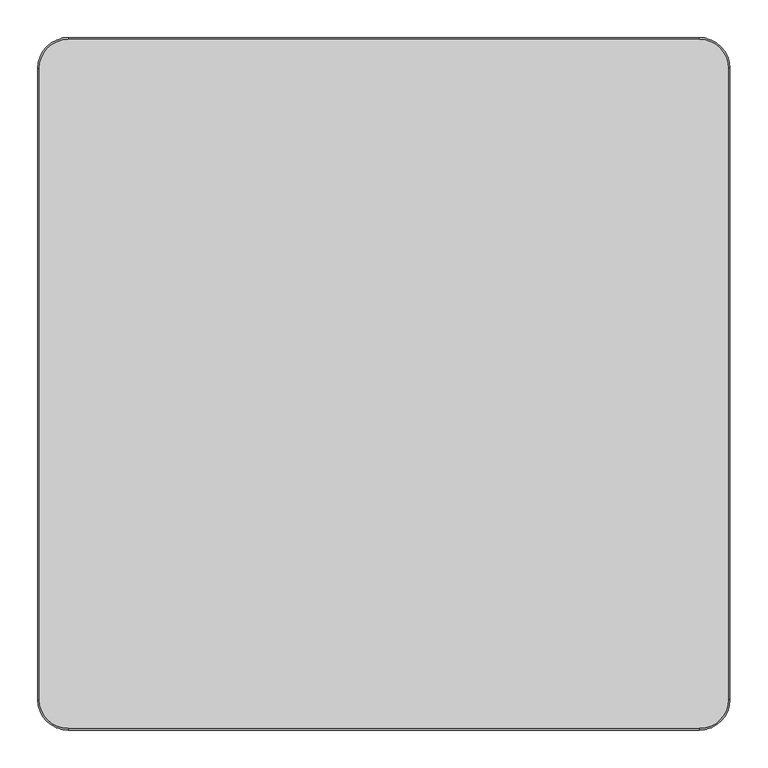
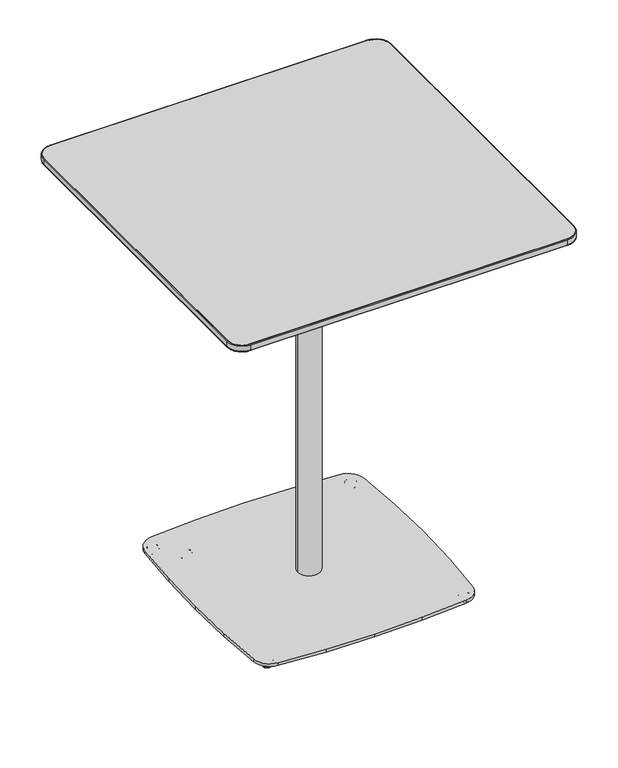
"""IFC4 building model written with IfcOpenShell, lengths in millimetres: furniture geometry, Coalesse_AM_Table_Occasional_Montara650Table_CafeHeight_Square : Bar Height - 36D x 36W."""

from ifc_helpers import new_model, si_unit, point, frame, frame_2d, origin, place, context, project, spatial, polyline, circle_curve, ellipse_curve, trimmed, segment, composite_curve, outline, extrude, source, transform, mapped, element, save
from ifc_brep_helpers import plane_surface, cylinder_surface, revolved_surface, spline_surface, advanced_brep


def furniture_301676fc(model_context):
    return source(origin(), model_context, "Body", "SolidModel", [
        advanced_brep(
        [(252.3158533, 252.1363755, 0.0), (267.0011381, 266.8216603, 0.0), (259.6584957, 259.4790179, 0.0), (251.7693511, 251.5898733, 0.5718943), (267.5476403, 267.3681625, 0.5718943), (249.470252, 249.2907742, 11.2068005), (269.8467394, 269.6672616, 11.2068005), (249.8852728, 249.705795, 11.9999882), (269.4317186, 269.2522408, 11.9999882), (259.6584957, 259.4790179, 11.9999882)],
        [
            (0, 1, circle_curve(frame((259.6584957, 259.4790179, 0.0), z_axis=(0.0, 0.0, -1.0), x_axis=(0.7071067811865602, 0.7071067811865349, 0.0)), 10.3840645)),
            (1, 2),
            (2, 0),
            (1, 0, circle_curve(frame((259.6584957, 259.4790179, 0.0), z_axis=(0.0, 0.0, -1.0), x_axis=(0.7071067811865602, 0.7071067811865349, 0.0)), 10.3840645)),
            (3, 4, circle_curve(frame((259.6584957, 259.4790179, 0.5718943), z_axis=(0.0, 0.0, -1.0), x_axis=(0.7071067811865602, 0.7071067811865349, 0.0)), 11.1569353)),
            (4, 1, circle_curve(frame((267.0011381, 266.8216603, 0.8081846), z_axis=(-0.7071067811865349, 0.7071067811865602, 0.0), x_axis=(0.7071067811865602, 0.7071067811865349, 0.0)), 0.8081846)),
            (0, 3, circle_curve(frame((252.3158533, 252.1363755, 0.8081846), z_axis=(-0.7071067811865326, 0.7071067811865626, 0.0), x_axis=(-0.7071067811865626, -0.7071067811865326, 0.0)), 0.8081846)),
            (4, 3, circle_curve(frame((259.6584957, 259.4790179, 0.5718943), z_axis=(0.0, 0.0, -1.0), x_axis=(0.7071067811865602, 0.7071067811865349, 0.0)), 11.1569353)),
            (5, 6, circle_curve(frame((259.6584957, 259.4790179, 11.2068005), z_axis=(0.0, 0.0, -1.0), x_axis=(0.7071067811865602, 0.7071067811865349, 0.0)), 14.4083524)),
            (6, 4),
            (3, 5),
            (6, 5, circle_curve(frame((259.6584957, 259.4790179, 11.2068005), z_axis=(0.0, 0.0, -1.0), x_axis=(0.7071067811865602, 0.7071067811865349, 0.0)), 14.4083524)),
            (7, 8, circle_curve(frame((259.6584957, 259.4790179, 11.9999882), z_axis=(0.0, 0.0, -1.0), x_axis=(0.7071067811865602, 0.7071067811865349, 0.0)), 13.8214243)),
            (8, 6, circle_curve(frame((269.4317186, 269.2522408, 11.3862424), z_axis=(-0.7071067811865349, 0.7071067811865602, 0.0), x_axis=(0.7071067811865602, 0.7071067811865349, 0.0)), 0.6137458)),
            (5, 7, circle_curve(frame((249.8852728, 249.705795, 11.3862424), z_axis=(-0.7071067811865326, 0.7071067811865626, 0.0), x_axis=(-0.7071067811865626, -0.7071067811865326, 0.0)), 0.6137458)),
            (8, 7, circle_curve(frame((259.6584957, 259.4790179, 11.9999882), z_axis=(0.0, 0.0, -1.0), x_axis=(0.7071067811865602, 0.7071067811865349, 0.0)), 13.8214243)),
            (9, 8),
            (7, 9),
        ],
        [
            plane_surface(frame((259.6584957, 259.4790179, 0.0), z_axis=(0.0, 0.0, -1.0000000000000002), x_axis=(0.7071067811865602, 0.7071067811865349, 0.0))),
            revolved_surface(trimmed(ellipse_curve(frame((267.0011381, 266.8216603, 0.8081846), z_axis=(0.7071067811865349, -0.7071067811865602, 0.0), x_axis=(0.7071067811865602, 0.7071067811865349, 0.0)), 0.8081846, 0.8081846), [point((267.0011381, 266.8216603, 0.0))], [point((267.5476403, 267.3681625, 0.5718943))], True, "CARTESIAN"), (259.6584957, 259.4790179, 12.2086845), (0.0, 0.0, 1.0)),
            revolved_surface(polyline([(267.5476403, 267.3681625, 0.5718943), (269.8467394, 269.6672616, 11.2068005)]), (259.6584957, 259.4790179, 12.2086845), (0.0, 0.0, 1.0)),
            revolved_surface(trimmed(ellipse_curve(frame((269.4317186, 269.2522408, 11.3862424), z_axis=(0.7071067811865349, -0.7071067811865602, 0.0), x_axis=(0.7071067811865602, 0.7071067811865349, 0.0)), 0.6137458, 0.6137458), [point((269.8467394, 269.6672616, 11.2068005))], [point((269.4317186, 269.2522408, 11.9999882))], True, "CARTESIAN"), (259.6584957, 259.4790179, 12.2086845), (0.0, 0.0, 1.0)),
            plane_surface(frame((259.6584957, 259.4790179, 11.9999882), z_axis=(0.0, 0.0, 1.0000000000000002), x_axis=(0.7071067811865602, 0.7071067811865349, 0.0))),
        ],
        [
            (0, [[1, 2, 3]]),
            (0, [[4, -3, -2]]),
            (1, [[5, 6, -1, 7]]),
            (1, [[8, -7, -4, -6]]),
            (2, [[9, 10, -5, 11]]),
            (2, [[12, -11, -8, -10]]),
            (3, [[13, 14, -9, 15]]),
            (3, [[16, -15, -12, -14]]),
            (4, [[17, -13, 18]]),
            (4, [[-18, -16, -17]]),
        ],
    ),
        advanced_brep(
        [(259.8015382, -259.9111532, 0.0), (267.1441807, -267.2537956, 0.0), (252.4588958, -252.5685107, 0.0), (267.6906828, -267.8002977, 0.5718943), (251.9123937, -252.0220086, 0.5718943), (269.9897819, -270.0993968, 11.2068005), (249.6132946, -249.7229095, 11.2068005), (269.5747611, -269.684376, 11.9999882), (250.0283154, -250.1379303, 11.9999882), (259.8015382, -259.9111532, 11.9999882)],
        [
            (0, 1),
            (1, 2, circle_curve(frame((259.8015382, -259.9111532, 0.0), z_axis=(0.0, 0.0, -1.0), x_axis=(0.7071067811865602, -0.7071067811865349, 0.0)), 10.3840645)),
            (2, 0),
            (2, 1, circle_curve(frame((259.8015382, -259.9111532, 0.0), z_axis=(0.0, 0.0, -1.0), x_axis=(0.7071067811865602, -0.7071067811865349, 0.0)), 10.3840645)),
            (1, 3, circle_curve(frame((267.1441807, -267.2537956, 0.8081846), z_axis=(-0.7071067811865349, -0.7071067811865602, 0.0), x_axis=(0.7071067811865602, -0.7071067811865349, 0.0)), 0.8081846)),
            (3, 4, circle_curve(frame((259.8015382, -259.9111532, 0.5718943), z_axis=(0.0, 0.0, -1.0), x_axis=(0.7071067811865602, -0.7071067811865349, 0.0)), 11.1569353)),
            (4, 2, circle_curve(frame((252.4588958, -252.5685107, 0.8081846), z_axis=(-0.7071067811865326, -0.7071067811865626, 0.0), x_axis=(-0.7071067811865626, 0.7071067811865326, 0.0)), 0.8081846)),
            (4, 3, circle_curve(frame((259.8015382, -259.9111532, 0.5718943), z_axis=(0.0, 0.0, -1.0), x_axis=(0.7071067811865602, -0.7071067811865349, 0.0)), 11.1569353)),
            (3, 5),
            (5, 6, circle_curve(frame((259.8015382, -259.9111532, 11.2068005), z_axis=(0.0, 0.0, -1.0), x_axis=(0.7071067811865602, -0.7071067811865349, 0.0)), 14.4083524)),
            (6, 4),
            (6, 5, circle_curve(frame((259.8015382, -259.9111532, 11.2068005), z_axis=(0.0, 0.0, -1.0), x_axis=(0.7071067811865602, -0.7071067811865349, 0.0)), 14.4083524)),
            (5, 7, circle_curve(frame((269.5747611, -269.684376, 11.3862424), z_axis=(-0.7071067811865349, -0.7071067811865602, 0.0), x_axis=(0.7071067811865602, -0.7071067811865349, 0.0)), 0.6137458)),
            (7, 8, circle_curve(frame((259.8015382, -259.9111532, 11.9999882), z_axis=(0.0, 0.0, -1.0), x_axis=(0.7071067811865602, -0.7071067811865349, 0.0)), 13.8214243)),
            (8, 6, circle_curve(frame((250.0283154, -250.1379303, 11.3862424), z_axis=(-0.7071067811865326, -0.7071067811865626, 0.0), x_axis=(-0.7071067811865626, 0.7071067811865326, 0.0)), 0.6137458)),
            (8, 7, circle_curve(frame((259.8015382, -259.9111532, 11.9999882), z_axis=(0.0, 0.0, -1.0), x_axis=(0.7071067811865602, -0.7071067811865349, 0.0)), 13.8214243)),
            (7, 9),
            (9, 8),
        ],
        [
            plane_surface(frame((259.8015382, -259.9111532, 0.0), z_axis=(0.0, 0.0, -1.0000000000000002), x_axis=(0.7071067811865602, -0.7071067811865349, 0.0))),
            revolved_surface(trimmed(ellipse_curve(frame((267.1441807, -267.2537956, 0.8081846), z_axis=(0.7071067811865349, 0.7071067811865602, 0.0), x_axis=(0.7071067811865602, -0.7071067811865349, 0.0)), 0.8081846, 0.8081846), [point((267.6906828, -267.8002977, 0.5718943))], [point((267.1441807, -267.2537956, 0.0))], True, "CARTESIAN"), (259.8015382, -259.9111532, 12.2086845), (0.0, 0.0, -1.0)),
            revolved_surface(polyline([(269.9897819, -270.0993968, 11.2068005), (267.6906828, -267.8002977, 0.5718943)]), (259.8015382, -259.9111532, 12.2086845), (0.0, 0.0, -1.0)),
            revolved_surface(trimmed(ellipse_curve(frame((269.5747611, -269.684376, 11.3862424), z_axis=(0.7071067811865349, 0.7071067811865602, 0.0), x_axis=(0.7071067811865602, -0.7071067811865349, 0.0)), 0.6137458, 0.6137458), [point((269.5747611, -269.684376, 11.9999882))], [point((269.9897819, -270.0993968, 11.2068005))], True, "CARTESIAN"), (259.8015382, -259.9111532, 12.2086845), (0.0, 0.0, -1.0)),
            plane_surface(frame((259.8015382, -259.9111532, 11.9999882), z_axis=(0.0, 0.0, 1.0000000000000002), x_axis=(0.7071067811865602, -0.7071067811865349, 0.0))),
        ],
        [
            (0, [[1, 2, 3]]),
            (0, [[-3, 4, -1]]),
            (1, [[-2, 5, 6, 7]]),
            (1, [[-4, -7, 8, -5]]),
            (2, [[-6, 9, 10, 11]]),
            (2, [[-8, -11, 12, -9]]),
            (3, [[-10, 13, 14, 15]]),
            (3, [[-12, -15, 16, -13]]),
            (4, [[-14, 17, 18]]),
            (4, [[-16, -18, -17]]),
        ],
    ),
        extrude(outline(composite_curve([segment(trimmed(circle_curve(frame_2d((-243.9942116, 243.996709)), 44.45), [point((-288.3392595, 247.0494508))], [point((-247.0469534, 288.3417568))], False, "CARTESIAN"), True, "CONTINUOUS"), segment(polyline([(-247.0469534, 288.3417568), (-126.1187996, 296.6665291), (-0.0009163, 300.0012093), (126.116967, 296.6665291), (247.0474572, 288.341596)]), True, "CONTINUOUS"), segment(trimmed(circle_curve(frame_2d((243.9947155, 243.9965482)), 44.45), [point((247.0474572, 288.341596))], [point((288.3397633, 247.0492899))], False, "CARTESIAN"), True, "CONTINUOUS"), segment(polyline([(288.3397633, 247.0492899), (296.6646964, 126.1187996), (299.9993766, 0.0009163), (296.6646964, -126.116967), (288.3399178, -247.0452123)]), True, "CONTINUOUS"), segment(trimmed(circle_curve(frame_2d((243.99487, -243.9924705)), 44.45), [point((288.3399178, -247.0452123))], [point((247.0484272, -288.3374622))], False, "CARTESIAN"), True, "CONTINUOUS"), segment(polyline([(247.0484272, -288.3374622), (126.116967, -296.6646964), (-0.0009163, -299.9993766), (-126.1187996, -296.6646964), (-247.0479234, -288.3376231)]), True, "CONTINUOUS"), segment(trimmed(circle_curve(frame_2d((-243.9943662, -243.9926314)), 44.45), [point((-247.0479234, -288.3376231))], [point((-288.339414, -247.0453732))], False, "CARTESIAN"), True, "CONTINUOUS"), segment(polyline([(-288.339414, -247.0453732), (-296.6642037, -126.116967), (-299.9988839, 0.0009163), (-296.6642037, 126.1187996), (-288.3392595, 247.0494508)]), True, "CONTINUOUS")], self_intersect=False)), frame((0.0, 0.0, 11.9999882), z_axis=(0.0, 0.0, 1.0), x_axis=(1.0, 0.0, 0.0)), (0.0, 0.0, 1.0), 8.0000083),
        advanced_brep(
        [(-259.8122576, 259.6204684, 0.0), (-267.1549, 266.9631108, 0.0), (-252.4696151, 252.277826, 0.0), (-267.7014021, 267.509613, 0.5718943), (-251.923113, 251.7313238, 0.5718943), (-270.0005012, 269.8087121, 11.2068005), (-249.6240139, 249.4322247, 11.2068005), (-269.5854804, 269.3936913, 11.9999882), (-250.0390347, 249.8472455, 11.9999882), (-259.8122576, 259.6204684, 11.9999882)],
        [
            (0, 1),
            (1, 2, circle_curve(frame((-259.8122576, 259.6204684, 0.0), z_axis=(0.0, 0.0, -1.0), x_axis=(-0.7071067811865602, 0.7071067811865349, 0.0)), 10.3840645)),
            (2, 0),
            (2, 1, circle_curve(frame((-259.8122576, 259.6204684, 0.0), z_axis=(0.0, 0.0, -1.0), x_axis=(-0.7071067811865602, 0.7071067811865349, 0.0)), 10.3840645)),
            (1, 3, circle_curve(frame((-267.1549, 266.9631108, 0.8081846), z_axis=(0.7071067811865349, 0.7071067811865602, 0.0), x_axis=(-0.7071067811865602, 0.7071067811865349, 0.0)), 0.8081846)),
            (3, 4, circle_curve(frame((-259.8122576, 259.6204684, 0.5718943), z_axis=(0.0, 0.0, -1.0), x_axis=(-0.7071067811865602, 0.7071067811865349, 0.0)), 11.1569353)),
            (4, 2, circle_curve(frame((-252.4696151, 252.277826, 0.8081846), z_axis=(0.7071067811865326, 0.7071067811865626, 0.0), x_axis=(0.7071067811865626, -0.7071067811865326, 0.0)), 0.8081846)),
            (4, 3, circle_curve(frame((-259.8122576, 259.6204684, 0.5718943), z_axis=(0.0, 0.0, -1.0), x_axis=(-0.7071067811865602, 0.7071067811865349, 0.0)), 11.1569353)),
            (3, 5),
            (5, 6, circle_curve(frame((-259.8122576, 259.6204684, 11.2068005), z_axis=(0.0, 0.0, -1.0), x_axis=(-0.7071067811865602, 0.7071067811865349, 0.0)), 14.4083524)),
            (6, 4),
            (6, 5, circle_curve(frame((-259.8122576, 259.6204684, 11.2068005), z_axis=(0.0, 0.0, -1.0), x_axis=(-0.7071067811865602, 0.7071067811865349, 0.0)), 14.4083524)),
            (5, 7, circle_curve(frame((-269.5854804, 269.3936913, 11.3862424), z_axis=(0.7071067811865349, 0.7071067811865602, 0.0), x_axis=(-0.7071067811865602, 0.7071067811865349, 0.0)), 0.6137458)),
            (7, 8, circle_curve(frame((-259.8122576, 259.6204684, 11.9999882), z_axis=(0.0, 0.0, -1.0), x_axis=(-0.7071067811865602, 0.7071067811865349, 0.0)), 13.8214243)),
            (8, 6, circle_curve(frame((-250.0390347, 249.8472455, 11.3862424), z_axis=(0.7071067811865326, 0.7071067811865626, 0.0), x_axis=(0.7071067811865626, -0.7071067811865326, 0.0)), 0.6137458)),
            (8, 7, circle_curve(frame((-259.8122576, 259.6204684, 11.9999882), z_axis=(0.0, 0.0, -1.0), x_axis=(-0.7071067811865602, 0.7071067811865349, 0.0)), 13.8214243)),
            (7, 9),
            (9, 8),
        ],
        [
            plane_surface(frame((-259.8122576, 259.6204684, 0.0), z_axis=(0.0, 0.0, -1.0000000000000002), x_axis=(-0.7071067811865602, 0.7071067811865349, 0.0))),
            revolved_surface(trimmed(ellipse_curve(frame((-267.1549, 266.9631108, 0.8081846), z_axis=(-0.7071067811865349, -0.7071067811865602, 0.0), x_axis=(-0.7071067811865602, 0.7071067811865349, 0.0)), 0.8081846, 0.8081846), [point((-267.7014021, 267.509613, 0.5718943))], [point((-267.1549, 266.9631108, 0.0))], True, "CARTESIAN"), (-259.8122576, 259.6204684, 12.2086845), (0.0, 0.0, -1.0)),
            revolved_surface(polyline([(-270.0005012, 269.8087121, 11.2068005), (-267.7014021, 267.509613, 0.5718943)]), (-259.8122576, 259.6204684, 12.2086845), (0.0, 0.0, -1.0)),
            revolved_surface(trimmed(ellipse_curve(frame((-269.5854804, 269.3936913, 11.3862424), z_axis=(-0.7071067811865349, -0.7071067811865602, 0.0), x_axis=(-0.7071067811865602, 0.7071067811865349, 0.0)), 0.6137458, 0.6137458), [point((-269.5854804, 269.3936913, 11.9999882))], [point((-270.0005012, 269.8087121, 11.2068005))], True, "CARTESIAN"), (-259.8122576, 259.6204684, 12.2086845), (0.0, 0.0, -1.0)),
            plane_surface(frame((-259.8122576, 259.6204684, 11.9999882), z_axis=(0.0, 0.0, 1.0000000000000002), x_axis=(-0.7071067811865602, 0.7071067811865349, 0.0))),
        ],
        [
            (0, [[1, 2, 3]]),
            (0, [[-3, 4, -1]]),
            (1, [[-2, 5, 6, 7]]),
            (1, [[-4, -7, 8, -5]]),
            (2, [[-6, 9, 10, 11]]),
            (2, [[-8, -11, 12, -9]]),
            (3, [[-10, 13, 14, 15]]),
            (3, [[-12, -15, 16, -13]]),
            (4, [[-14, 17, 18]]),
            (4, [[-16, -18, -17]]),
        ],
    ),
        advanced_brep(
        [(-252.8175248, -252.4969322, 0.0), (-267.5028096, -267.182217, 0.0), (-260.1601672, -259.8395746, 0.0), (-252.2710226, -251.95043, 0.5718943), (-268.0493118, -267.7287192, 0.5718943), (-249.9719235, -249.6513309, 11.2068005), (-270.3484109, -270.0278183, 11.2068005), (-250.3869443, -250.0663517, 11.9999882), (-269.9333901, -269.6127975, 11.9999882), (-260.1601672, -259.8395746, 11.9999882)],
        [
            (0, 1, circle_curve(frame((-260.1601672, -259.8395746, 0.0), z_axis=(0.0, 0.0, -1.0), x_axis=(-0.7071067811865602, -0.7071067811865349, 0.0)), 10.3840645)),
            (1, 2),
            (2, 0),
            (1, 0, circle_curve(frame((-260.1601672, -259.8395746, 0.0), z_axis=(0.0, 0.0, -1.0), x_axis=(-0.7071067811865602, -0.7071067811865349, 0.0)), 10.3840645)),
            (3, 4, circle_curve(frame((-260.1601672, -259.8395746, 0.5718943), z_axis=(0.0, 0.0, -1.0), x_axis=(-0.7071067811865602, -0.7071067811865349, 0.0)), 11.1569353)),
            (4, 1, circle_curve(frame((-267.5028096, -267.182217, 0.8081846), z_axis=(0.7071067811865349, -0.7071067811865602, 0.0), x_axis=(-0.7071067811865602, -0.7071067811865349, 0.0)), 0.8081846)),
            (0, 3, circle_curve(frame((-252.8175248, -252.4969322, 0.8081846), z_axis=(0.7071067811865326, -0.7071067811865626, 0.0), x_axis=(0.7071067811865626, 0.7071067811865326, 0.0)), 0.8081846)),
            (4, 3, circle_curve(frame((-260.1601672, -259.8395746, 0.5718943), z_axis=(0.0, 0.0, -1.0), x_axis=(-0.7071067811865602, -0.7071067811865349, 0.0)), 11.1569353)),
            (5, 6, circle_curve(frame((-260.1601672, -259.8395746, 11.2068005), z_axis=(0.0, 0.0, -1.0), x_axis=(-0.7071067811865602, -0.7071067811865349, 0.0)), 14.4083524)),
            (6, 4),
            (3, 5),
            (6, 5, circle_curve(frame((-260.1601672, -259.8395746, 11.2068005), z_axis=(0.0, 0.0, -1.0), x_axis=(-0.7071067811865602, -0.7071067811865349, 0.0)), 14.4083524)),
            (7, 8, circle_curve(frame((-260.1601672, -259.8395746, 11.9999882), z_axis=(0.0, 0.0, -1.0), x_axis=(-0.7071067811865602, -0.7071067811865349, 0.0)), 13.8214243)),
            (8, 6, circle_curve(frame((-269.9333901, -269.6127975, 11.3862424), z_axis=(0.7071067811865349, -0.7071067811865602, 0.0), x_axis=(-0.7071067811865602, -0.7071067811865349, 0.0)), 0.6137458)),
            (5, 7, circle_curve(frame((-250.3869443, -250.0663517, 11.3862424), z_axis=(0.7071067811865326, -0.7071067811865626, 0.0), x_axis=(0.7071067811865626, 0.7071067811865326, 0.0)), 0.6137458)),
            (8, 7, circle_curve(frame((-260.1601672, -259.8395746, 11.9999882), z_axis=(0.0, 0.0, -1.0), x_axis=(-0.7071067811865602, -0.7071067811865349, 0.0)), 13.8214243)),
            (9, 8),
            (7, 9),
        ],
        [
            plane_surface(frame((-260.1601672, -259.8395746, 0.0), z_axis=(0.0, 0.0, -1.0000000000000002), x_axis=(-0.7071067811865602, -0.7071067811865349, 0.0))),
            revolved_surface(trimmed(ellipse_curve(frame((-267.5028096, -267.182217, 0.8081846), z_axis=(-0.7071067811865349, 0.7071067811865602, 0.0), x_axis=(-0.7071067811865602, -0.7071067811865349, 0.0)), 0.8081846, 0.8081846), [point((-267.5028096, -267.182217, 0.0))], [point((-268.0493118, -267.7287192, 0.5718943))], True, "CARTESIAN"), (-260.1601672, -259.8395746, 12.2086845), (0.0, 0.0, 1.0)),
            revolved_surface(polyline([(-268.0493118, -267.7287192, 0.5718943), (-270.3484109, -270.0278183, 11.2068005)]), (-260.1601672, -259.8395746, 12.2086845), (0.0, 0.0, 1.0)),
            revolved_surface(trimmed(ellipse_curve(frame((-269.9333901, -269.6127975, 11.3862424), z_axis=(-0.7071067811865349, 0.7071067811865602, 0.0), x_axis=(-0.7071067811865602, -0.7071067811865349, 0.0)), 0.6137458, 0.6137458), [point((-270.3484109, -270.0278183, 11.2068005))], [point((-269.9333901, -269.6127975, 11.9999882))], True, "CARTESIAN"), (-260.1601672, -259.8395746, 12.2086845), (0.0, 0.0, 1.0)),
            plane_surface(frame((-260.1601672, -259.8395746, 11.9999882), z_axis=(0.0, 0.0, 1.0000000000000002), x_axis=(-0.7071067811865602, -0.7071067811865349, 0.0))),
        ],
        [
            (0, [[1, 2, 3]]),
            (0, [[4, -3, -2]]),
            (1, [[5, 6, -1, 7]]),
            (1, [[8, -7, -4, -6]]),
            (2, [[9, 10, -5, 11]]),
            (2, [[12, -11, -8, -10]]),
            (3, [[13, 14, -9, 15]]),
            (3, [[16, -15, -12, -14]]),
            (4, [[17, -13, 18]]),
            (4, [[-18, -16, -17]]),
        ],
    ),
        advanced_brep(
        [(-204.8873489, 205.5044028, 0.0), (-212.2299913, 212.8470453, 0.0), (-197.5447065, 198.1617604, 0.0), (-212.7764935, 213.3935474, 0.5718943), (-196.9982043, 197.6152583, 0.5718943), (-215.0755926, 215.6926465, 11.2068005), (-194.6991052, 195.3161592, 11.2068005), (-214.6605718, 215.2776257, 11.9999882), (-195.114126, 195.73118, 11.9999882), (-204.8873489, 205.5044028, 11.9999882)],
        [
            (0, 1),
            (1, 2, circle_curve(frame((-204.8873489, 205.5044028, 0.0), z_axis=(0.0, 0.0, -1.0), x_axis=(-0.7071067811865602, 0.7071067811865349, 0.0)), 10.3840645)),
            (2, 0),
            (2, 1, circle_curve(frame((-204.8873489, 205.5044028, 0.0), z_axis=(0.0, 0.0, -1.0), x_axis=(-0.7071067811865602, 0.7071067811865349, 0.0)), 10.3840645)),
            (1, 3, circle_curve(frame((-212.2299913, 212.8470453, 0.8081846), z_axis=(0.7071067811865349, 0.7071067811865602, 0.0), x_axis=(-0.7071067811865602, 0.7071067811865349, 0.0)), 0.8081846)),
            (3, 4, circle_curve(frame((-204.8873489, 205.5044028, 0.5718943), z_axis=(0.0, 0.0, -1.0), x_axis=(-0.7071067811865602, 0.7071067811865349, 0.0)), 11.1569353)),
            (4, 2, circle_curve(frame((-197.5447065, 198.1617604, 0.8081846), z_axis=(0.7071067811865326, 0.7071067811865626, 0.0), x_axis=(0.7071067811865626, -0.7071067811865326, 0.0)), 0.8081846)),
            (4, 3, circle_curve(frame((-204.8873489, 205.5044028, 0.5718943), z_axis=(0.0, 0.0, -1.0), x_axis=(-0.7071067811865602, 0.7071067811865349, 0.0)), 11.1569353)),
            (3, 5),
            (5, 6, circle_curve(frame((-204.8873489, 205.5044028, 11.2068005), z_axis=(0.0, 0.0, -1.0), x_axis=(-0.7071067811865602, 0.7071067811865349, 0.0)), 14.4083524)),
            (6, 4),
            (6, 5, circle_curve(frame((-204.8873489, 205.5044028, 11.2068005), z_axis=(0.0, 0.0, -1.0), x_axis=(-0.7071067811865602, 0.7071067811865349, 0.0)), 14.4083524)),
            (5, 7, circle_curve(frame((-214.6605718, 215.2776257, 11.3862424), z_axis=(0.7071067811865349, 0.7071067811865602, 0.0), x_axis=(-0.7071067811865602, 0.7071067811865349, 0.0)), 0.6137458)),
            (7, 8, circle_curve(frame((-204.8873489, 205.5044028, 11.9999882), z_axis=(0.0, 0.0, -1.0), x_axis=(-0.7071067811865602, 0.7071067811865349, 0.0)), 13.8214243)),
            (8, 6, circle_curve(frame((-195.114126, 195.73118, 11.3862424), z_axis=(0.7071067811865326, 0.7071067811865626, 0.0), x_axis=(0.7071067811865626, -0.7071067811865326, 0.0)), 0.6137458)),
            (8, 7, circle_curve(frame((-204.8873489, 205.5044028, 11.9999882), z_axis=(0.0, 0.0, -1.0), x_axis=(-0.7071067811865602, 0.7071067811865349, 0.0)), 13.8214243)),
            (7, 9),
            (9, 8),
        ],
        [
            plane_surface(frame((-204.8873489, 205.5044028, 0.0), z_axis=(0.0, 0.0, -1.0000000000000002), x_axis=(-0.7071067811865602, 0.7071067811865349, 0.0))),
            revolved_surface(trimmed(ellipse_curve(frame((-212.2299913, 212.8470453, 0.8081846), z_axis=(-0.7071067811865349, -0.7071067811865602, 0.0), x_axis=(-0.7071067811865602, 0.7071067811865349, 0.0)), 0.8081846, 0.8081846), [point((-212.7764935, 213.3935474, 0.5718943))], [point((-212.2299913, 212.8470453, 0.0))], True, "CARTESIAN"), (-204.8873489, 205.5044028, 12.2086845), (0.0, 0.0, -1.0)),
            revolved_surface(polyline([(-215.0755926, 215.6926465, 11.2068005), (-212.7764935, 213.3935474, 0.5718943)]), (-204.8873489, 205.5044028, 12.2086845), (0.0, 0.0, -1.0)),
            revolved_surface(trimmed(ellipse_curve(frame((-214.6605718, 215.2776257, 11.3862424), z_axis=(-0.7071067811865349, -0.7071067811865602, 0.0), x_axis=(-0.7071067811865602, 0.7071067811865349, 0.0)), 0.6137458, 0.6137458), [point((-214.6605718, 215.2776257, 11.9999882))], [point((-215.0755926, 215.6926465, 11.2068005))], True, "CARTESIAN"), (-204.8873489, 205.5044028, 12.2086845), (0.0, 0.0, -1.0)),
            plane_surface(frame((-204.8873489, 205.5044028, 11.9999882), z_axis=(0.0, 0.0, 1.0000000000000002), x_axis=(-0.7071067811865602, 0.7071067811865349, 0.0))),
        ],
        [
            (0, [[1, 2, 3]]),
            (0, [[-3, 4, -1]]),
            (1, [[-2, 5, 6, 7]]),
            (1, [[-4, -7, 8, -5]]),
            (2, [[-6, 9, 10, 11]]),
            (2, [[-8, -11, 12, -9]]),
            (3, [[-10, 13, 14, 15]]),
            (3, [[-12, -15, 16, -13]]),
            (4, [[-14, 17, 18]]),
            (4, [[-16, -18, -17]]),
        ],
    ),
        advanced_brep(
        [(392.2626362, 392.2635082, 1036.830027), (392.2626362, -392.2635082, 1036.830027), (-392.2626362, -392.2635082, 1036.830027), (-392.2626362, 392.2635082, 1036.830027), (416.988625, 455.168, 1049.095891), (-416.988625, 455.168, 1049.095891), (-455.088625, 417.068, 1049.095891), (-455.088625, -417.068, 1049.095891), (-416.988625, -455.168, 1049.095891), (416.988625, -455.168, 1049.095891), (455.088625, -417.068, 1049.095891), (455.088625, 417.068, 1049.095891)],
        [
            (0, 1),
            (1, 2),
            (2, 3),
            (3, 0),
            (4, 5),
            (5, 6, circle_curve(frame((-416.988625, 417.068, 1049.095891), z_axis=(0.0, 0.0, 1.0), x_axis=(1.0, 0.0, 0.0)), 38.1)),
            (6, 7),
            (7, 8, circle_curve(frame((-416.988625, -417.068, 1049.095891), z_axis=(0.0, 0.0, 1.0), x_axis=(1.0, 0.0, 0.0)), 38.1)),
            (8, 9),
            (9, 10, circle_curve(frame((416.988625, -417.068, 1049.095891), z_axis=(0.0, 0.0, 1.0), x_axis=(1.0, 0.0, 0.0)), 38.1)),
            (10, 11),
            (11, 4, circle_curve(frame((416.988625, 417.068, 1049.095891), z_axis=(0.0, 0.0, 1.0), x_axis=(1.0, 0.0, 0.0)), 38.1)),
            (11, 0),
            (0, 4),
            (10, 1),
            (9, 1),
            (8, 2),
            (7, 2),
            (6, 3),
            (5, 3),
        ],
        [
            plane_surface(frame((0.0, 0.0, 1036.830027), z_axis=(0.0, 0.0, -1.0), x_axis=(-1.0, 0.0, 0.0))),
            plane_surface(frame((0.0, 0.0, 1049.095891), z_axis=(0.0, 0.0, 1.0), x_axis=(-1.0, 0.0, 0.0))),
            spline_surface(2, 1, [[(416.988625, 455.168, 1049.095891), (392.2626362, 392.2635082, 1036.830027)], [(455.08862500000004, 455.16800000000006, 1049.095891), (392.2626362, 392.2635082, 1036.830027)], [(455.088625, 417.068, 1049.095891), (392.2626362, 392.2635082, 1036.830027)]], [3, 3], [2, 2], [0.0, 1.0], [0.0, 1.0], weights=[[1.0, 1.0], [0.707106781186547, 0.707106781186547], [1.0, 1.0]]),
            plane_surface(frame((455.088625, 0.0, 1049.095891), z_axis=(0.1916177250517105, 0.0, -0.9814696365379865), x_axis=(0.0, -1.0, 0.0))),
            spline_surface(2, 1, [[(455.088625, -417.068, 1049.095891), (392.2626362, -392.2635082, 1036.830027)], [(455.0886249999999, -455.16799999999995, 1049.095891), (392.2626362, -392.2635082, 1036.830027)], [(416.988625, -455.168, 1049.095891), (392.2626362, -392.2635082, 1036.830027)]], [3, 3], [2, 2], [0.0, 1.0], [0.0, 1.0], weights=[[1.0, 1.0], [0.7071067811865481, 0.7071067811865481], [1.0, 1.0]]),
            plane_surface(frame((0.0, -455.168, 1049.095891), z_axis=(0.0, -0.19138735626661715, -0.981514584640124), x_axis=(-1.0, 0.0, 0.0))),
            spline_surface(2, 1, [[(-416.988625, -455.168, 1049.095891), (-392.2626362, -392.2635082, 1036.830027)], [(-455.08862500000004, -455.16800000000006, 1049.095891), (-392.2626362, -392.2635082, 1036.830027)], [(-455.088625, -417.068, 1049.095891), (-392.2626362, -392.2635082, 1036.830027)]], [3, 3], [2, 2], [0.0, 1.0], [0.0, 1.0], weights=[[1.0, 1.0], [0.707106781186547, 0.707106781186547], [1.0, 1.0]]),
            plane_surface(frame((-455.088625, 0.0, 1049.095891), z_axis=(-0.1916177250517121, 0.0, -0.9814696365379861), x_axis=(0.0, 1.0, 0.0))),
            spline_surface(2, 1, [[(-455.088625, 417.068, 1049.095891), (-392.2626362, 392.2635082, 1036.830027)], [(-455.0886249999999, 455.16799999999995, 1049.095891), (-392.2626362, 392.2635082, 1036.830027)], [(-416.988625, 455.168, 1049.095891), (-392.2626362, 392.2635082, 1036.830027)]], [3, 3], [2, 2], [0.0, 1.0], [0.0, 1.0], weights=[[1.0, 1.0], [0.7071067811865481, 0.7071067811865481], [1.0, 1.0]]),
            plane_surface(frame((0.0, 455.168, 1049.095891), z_axis=(0.0, 0.19138735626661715, -0.981514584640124), x_axis=(1.0, 0.0, 0.0))),
        ],
        [
            (0, [[1, 2, 3, 4]]),
            (1, [[5, 6, 7, 8, 9, 10, 11, 12]]),
            (2, [[-12, 13, 14]]),
            (3, [[-11, 15, -1, -13]]),
            (4, [[-10, 16, -15]]),
            (5, [[-9, 17, -2, -16]]),
            (6, [[-8, 18, -17]]),
            (7, [[-7, 19, -3, -18]]),
            (8, [[-6, 20, -19]]),
            (9, [[-5, -14, -4, -20]]),
        ],
    ),
        extrude(outline(composite_curve([segment(trimmed(circle_curve(frame_2d((416.988625, 417.068)), 38.1), [point((416.988625, 455.168))], [point((455.088625, 417.068))], False, "CARTESIAN"), True, "CONTINUOUS"), segment(polyline([(455.088625, 417.068), (455.088625, -417.068)]), True, "CONTINUOUS"), segment(trimmed(circle_curve(frame_2d((416.988625, -417.068)), 38.1), [point((455.088625, -417.068))], [point((416.988625, -455.168))], False, "CARTESIAN"), True, "CONTINUOUS"), segment(polyline([(416.988625, -455.168), (-416.988625, -455.168)]), True, "CONTINUOUS"), segment(trimmed(circle_curve(frame_2d((-416.988625, -417.068)), 38.1), [point((-416.988625, -455.168))], [point((-455.088625, -417.068))], False, "CARTESIAN"), True, "CONTINUOUS"), segment(polyline([(-455.088625, -417.068), (-455.088625, 417.068)]), True, "CONTINUOUS"), segment(trimmed(circle_curve(frame_2d((-416.988625, 417.068)), 38.1), [point((-455.088625, 417.068))], [point((-416.988625, 455.168))], False, "CARTESIAN"), True, "CONTINUOUS"), segment(polyline([(-416.988625, 455.168), (416.988625, 455.168)]), True, "CONTINUOUS")], self_intersect=False)), frame((0.0, 0.0, 1049.095891), z_axis=(0.0, 0.0, 1.0), x_axis=(1.0, 0.0, 0.0)), (0.0, 0.0, 1.0), 17.704109),
        advanced_brep(
        [(-457.1644915, 417.068, 1051.0278467), (-416.988625, 457.2438665, 1051.0278467), (-416.988625, 455.168, 1049.095891), (-455.088625, 417.068, 1049.095891), (-457.1644915, 417.068, 1064.7999283), (-416.988625, 457.2438665, 1064.7999283), (-455.088625, 417.068, 1066.8), (-416.988625, 455.168, 1066.8), (-455.088625, -417.068, 1049.095891), (-457.1644915, -417.068, 1051.0278467), (-457.1644915, -417.068, 1064.7999283), (-455.088625, -417.068, 1066.8), (-416.988625, -457.2438665, 1051.0278467), (-416.988625, -455.168, 1049.095891), (-416.988625, -457.2438665, 1064.7999283), (-416.988625, -455.168, 1066.8), (416.988625, -455.168, 1049.095891), (416.988625, -457.2438665, 1051.0278467), (416.988625, -457.2438665, 1064.7999283), (416.988625, -455.168, 1066.8), (457.1644915, -417.068, 1051.0278467), (455.088625, -417.068, 1049.095891), (457.1644915, -417.068, 1064.7999283), (455.088625, -417.068, 1066.8), (455.088625, 417.068, 1049.095891), (457.1644915, 417.068, 1051.0278467), (457.1644915, 417.068, 1064.7999283), (455.088625, 417.068, 1066.8), (416.988625, 457.2438665, 1051.0278467), (416.988625, 455.168, 1049.095891), (416.988625, 457.2438665, 1064.7999283), (416.988625, 455.168, 1066.8)],
        [
            (0, 1, circle_curve(frame((-416.988625, 417.068, 1051.0278467), z_axis=(0.0, 0.0, -1.0), x_axis=(0.0, 1.0, 0.0)), 40.1758665)),
            (1, 2, circle_curve(frame((-416.988625, 455.3069224, 1051.0278467), z_axis=(-1.0, 0.0, 0.0), x_axis=(0.0, -1.0, 0.0)), 1.9369441)),
            (2, 3, circle_curve(frame((-416.988625, 417.068, 1049.095891), z_axis=(0.0, 0.0, 1.0), x_axis=(0.0, 1.0, 0.0)), 38.1)),
            (3, 0, circle_curve(frame((-455.2275474, 417.068, 1051.0278467), z_axis=(0.0, 1.0, 0.0), x_axis=(1.0, 0.0, 0.0)), 1.9369441)),
            (4, 5, circle_curve(frame((-416.988625, 417.068, 1064.7999283), z_axis=(0.0, 0.0, -1.0), x_axis=(0.0, 1.0, 0.0)), 40.1758665)),
            (5, 1),
            (0, 4),
            (6, 7, circle_curve(frame((-416.988625, 417.068, 1066.8), z_axis=(0.0, 0.0, -1.0), x_axis=(0.0, 1.0, 0.0)), 38.1)),
            (7, 5, circle_curve(frame((-416.988625, 455.2424111, 1064.7999283), z_axis=(-1.0, 0.0, 0.0), x_axis=(0.0, -1.0, 0.0)), 2.0014554)),
            (4, 6, circle_curve(frame((-455.1630361, 417.068, 1064.7999283), z_axis=(0.0, 1.0, 0.0), x_axis=(1.0, 0.0, 0.0)), 2.0014554)),
            (2, 7),
            (6, 3),
            (3, 8),
            (8, 9, circle_curve(frame((-455.2275474, -417.068, 1051.0278467), z_axis=(0.0, 1.0, 0.0), x_axis=(1.0, 0.0, 0.0)), 1.9369441)),
            (9, 0),
            (9, 10),
            (10, 4),
            (10, 11, circle_curve(frame((-455.1630361, -417.068, 1064.7999283), z_axis=(0.0, 1.0, 0.0), x_axis=(1.0, 0.0, 0.0)), 2.0014554)),
            (11, 6),
            (11, 8),
            (12, 9, circle_curve(frame((-416.988625, -417.068, 1051.0278467), z_axis=(0.0, 0.0, -1.0), x_axis=(-1.0, 0.0, 0.0)), 40.1758665)),
            (8, 13, circle_curve(frame((-416.988625, -417.068, 1049.095891), z_axis=(0.0, 0.0, 1.0), x_axis=(-1.0, 0.0, 0.0)), 38.1)),
            (13, 12, circle_curve(frame((-416.988625, -455.3069224, 1051.0278467), z_axis=(-1.0, 0.0, 0.0), x_axis=(0.0, 1.0, 0.0)), 1.9369441)),
            (14, 10, circle_curve(frame((-416.988625, -417.068, 1064.7999283), z_axis=(0.0, 0.0, -1.0), x_axis=(-1.0, 0.0, 0.0)), 40.1758665)),
            (12, 14),
            (15, 11, circle_curve(frame((-416.988625, -417.068, 1066.8), z_axis=(0.0, 0.0, -1.0), x_axis=(-1.0, 0.0, 0.0)), 38.1)),
            (14, 15, circle_curve(frame((-416.988625, -455.2424111, 1064.7999283), z_axis=(-1.0, 0.0, 0.0), x_axis=(0.0, 1.0, 0.0)), 2.0014554)),
            (15, 13),
            (13, 16),
            (16, 17, circle_curve(frame((416.988625, -455.3069224, 1051.0278467), z_axis=(-1.0, 0.0, 0.0), x_axis=(0.0, 1.0, 0.0)), 1.9369441)),
            (17, 12),
            (17, 18),
            (18, 14),
            (18, 19, circle_curve(frame((416.988625, -455.2424111, 1064.7999283), z_axis=(-1.0, 0.0, 0.0), x_axis=(0.0, 1.0, 0.0)), 2.0014554)),
            (19, 15),
            (19, 16),
            (20, 17, circle_curve(frame((416.988625, -417.068, 1051.0278467), z_axis=(0.0, 0.0, -1.0), x_axis=(0.0, -1.0, 0.0)), 40.1758665)),
            (16, 21, circle_curve(frame((416.988625, -417.068, 1049.095891), z_axis=(0.0, 0.0, 1.0), x_axis=(0.0, -1.0, 0.0)), 38.1)),
            (21, 20, circle_curve(frame((455.2275474, -417.068, 1051.0278467), z_axis=(0.0, -1.0, 0.0), x_axis=(-1.0, 0.0, 0.0)), 1.9369441)),
            (22, 18, circle_curve(frame((416.988625, -417.068, 1064.7999283), z_axis=(0.0, 0.0, -1.0), x_axis=(0.0, -1.0, 0.0)), 40.1758665)),
            (20, 22),
            (23, 19, circle_curve(frame((416.988625, -417.068, 1066.8), z_axis=(0.0, 0.0, -1.0), x_axis=(0.0, -1.0, 0.0)), 38.1)),
            (22, 23, circle_curve(frame((455.1630361, -417.068, 1064.7999283), z_axis=(0.0, -1.0, 0.0), x_axis=(-1.0, 0.0, 0.0)), 2.0014554)),
            (23, 21),
            (21, 24),
            (24, 25, circle_curve(frame((455.2275474, 417.068, 1051.0278467), z_axis=(0.0, -1.0, 0.0), x_axis=(-1.0, 0.0, 0.0)), 1.9369441)),
            (25, 20),
            (25, 26),
            (26, 22),
            (26, 27, circle_curve(frame((455.1630361, 417.068, 1064.7999283), z_axis=(0.0, -1.0, 0.0), x_axis=(-1.0, 0.0, 0.0)), 2.0014554)),
            (27, 23),
            (27, 24),
            (28, 25, circle_curve(frame((416.988625, 417.068, 1051.0278467), z_axis=(0.0, 0.0, -1.0), x_axis=(1.0, 0.0, 0.0)), 40.1758665)),
            (24, 29, circle_curve(frame((416.988625, 417.068, 1049.095891), z_axis=(0.0, 0.0, 1.0), x_axis=(1.0, 0.0, 0.0)), 38.1)),
            (29, 28, circle_curve(frame((416.988625, 455.3069224, 1051.0278467), z_axis=(1.0, 0.0, 0.0), x_axis=(0.0, -1.0, 0.0)), 1.9369441)),
            (30, 26, circle_curve(frame((416.988625, 417.068, 1064.7999283), z_axis=(0.0, 0.0, -1.0), x_axis=(1.0, 0.0, 0.0)), 40.1758665)),
            (28, 30),
            (31, 27, circle_curve(frame((416.988625, 417.068, 1066.8), z_axis=(0.0, 0.0, -1.0), x_axis=(1.0, 0.0, 0.0)), 38.1)),
            (30, 31, circle_curve(frame((416.988625, 455.2424111, 1064.7999283), z_axis=(1.0, 0.0, 0.0), x_axis=(0.0, -1.0, 0.0)), 2.0014554)),
            (31, 29),
            (29, 2),
            (1, 28),
            (5, 30),
            (7, 31),
        ],
        [
            revolved_surface(trimmed(ellipse_curve(frame((-416.988625, 455.3069224, 1051.0278467), z_axis=(1.0, 0.0, 0.0), x_axis=(0.0, -1.0, 0.0)), 1.9369441, 1.9369441), [point((-416.988625, 455.168, 1049.095891))], [point((-416.988625, 457.2438665, 1051.0278467))], True, "CARTESIAN"), (-416.988625, 417.068, 0.0), (0.0, 0.0, 1.0)),
            cylinder_surface(frame((-416.988625, 417.068, 0.0), z_axis=(0.0, 0.0, 1.0), x_axis=(0.0, 1.0, 0.0)), 40.1758665),
            revolved_surface(trimmed(ellipse_curve(frame((-416.988625, 455.2424111, 1064.7999283), z_axis=(1.0, 0.0, 0.0), x_axis=(0.0, -1.0, 0.0)), 2.0014554, 2.0014554), [point((-416.988625, 457.2438665, 1064.7999283))], [point((-416.988625, 455.168, 1066.8))], True, "CARTESIAN"), (-416.988625, 417.068, 0.0), (0.0, 0.0, 1.0)),
            revolved_surface(polyline([(-416.988625, 455.168, 1066.8), (-416.988625, 455.168, 1049.095891)]), (-416.988625, 417.068, 0.0), (0.0, 0.0, 1.0)),
            cylinder_surface(frame((-455.2275474, 417.068, 1051.0278467), z_axis=(0.0, 1.0, 0.0), x_axis=(1.0, 0.0, 0.0)), 1.9369441),
            plane_surface(frame((-457.1644915, 417.068, 1051.0278467), z_axis=(-1.0, 0.0, 0.0), x_axis=(0.0, -1.0, 0.0))),
            cylinder_surface(frame((-455.1630361, 417.068, 1064.7999283), z_axis=(0.0, 1.0, 0.0), x_axis=(1.0, 0.0, 0.0)), 2.0014554),
            plane_surface(frame((-455.088625, 417.068, 1066.8), z_axis=(1.0, 0.0, 0.0), x_axis=(0.0, -1.0, 0.0))),
            revolved_surface(trimmed(ellipse_curve(frame((-455.2275474, -417.068, 1051.0278467), z_axis=(0.0, 1.0, 0.0), x_axis=(1.0, 0.0, 0.0)), 1.9369441, 1.9369441), [point((-455.088625, -417.068, 1049.095891))], [point((-457.1644915, -417.068, 1051.0278467))], True, "CARTESIAN"), (-416.988625, -417.068, 0.0), (0.0, 0.0, 1.0)),
            cylinder_surface(frame((-416.988625, -417.068, 0.0), z_axis=(0.0, 0.0, 1.0), x_axis=(-1.0, 0.0, 0.0)), 40.1758665),
            revolved_surface(trimmed(ellipse_curve(frame((-455.1630361, -417.068, 1064.7999283), z_axis=(0.0, 1.0, 0.0), x_axis=(1.0, 0.0, 0.0)), 2.0014554, 2.0014554), [point((-457.1644915, -417.068, 1064.7999283))], [point((-455.088625, -417.068, 1066.8))], True, "CARTESIAN"), (-416.988625, -417.068, 0.0), (0.0, 0.0, 1.0)),
            revolved_surface(polyline([(-455.08862500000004, -417.068, 1066.8), (-455.08862500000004, -417.068, 1049.095891)]), (-416.988625, -417.068, 0.0), (0.0, 0.0, 1.0)),
            cylinder_surface(frame((-416.988625, -455.3069224, 1051.0278467), z_axis=(-1.0, 0.0, 0.0), x_axis=(0.0, 1.0, 0.0)), 1.9369441),
            plane_surface(frame((-416.988625, -457.2438665, 1051.0278467), z_axis=(0.0, -1.0, 0.0), x_axis=(1.0, 0.0, 0.0))),
            cylinder_surface(frame((-416.988625, -455.2424111, 1064.7999283), z_axis=(-1.0, 0.0, 0.0), x_axis=(0.0, 1.0, 0.0)), 2.0014554),
            plane_surface(frame((-416.988625, -455.168, 1066.8), z_axis=(0.0, 1.0, 0.0), x_axis=(1.0, 0.0, 0.0))),
            revolved_surface(trimmed(ellipse_curve(frame((416.988625, -455.3069224, 1051.0278467), z_axis=(-1.0, 0.0, 0.0), x_axis=(0.0, 1.0, 0.0)), 1.9369441, 1.9369441), [point((416.988625, -455.168, 1049.095891))], [point((416.988625, -457.2438665, 1051.0278467))], True, "CARTESIAN"), (416.988625, -417.068, 0.0), (0.0, 0.0, 1.0)),
            cylinder_surface(frame((416.988625, -417.068, 0.0), z_axis=(0.0, 0.0, 1.0), x_axis=(0.0, -1.0, 0.0)), 40.1758665),
            revolved_surface(trimmed(ellipse_curve(frame((416.988625, -455.2424111, 1064.7999283), z_axis=(-1.0, 0.0, 0.0), x_axis=(0.0, 1.0, 0.0)), 2.0014554, 2.0014554), [point((416.988625, -457.2438665, 1064.7999283))], [point((416.988625, -455.168, 1066.8))], True, "CARTESIAN"), (416.988625, -417.068, 0.0), (0.0, 0.0, 1.0)),
            revolved_surface(polyline([(416.988625, -455.168, 1066.8), (416.988625, -455.168, 1049.095891)]), (416.988625, -417.068, 0.0), (0.0, 0.0, 1.0)),
            cylinder_surface(frame((455.2275474, -417.068, 1051.0278467), z_axis=(0.0, -1.0, 0.0), x_axis=(-1.0, 0.0, 0.0)), 1.9369441),
            plane_surface(frame((457.1644915, -417.068, 1051.0278467), z_axis=(1.0, 0.0, 0.0), x_axis=(0.0, 1.0, 0.0))),
            cylinder_surface(frame((455.1630361, -417.068, 1064.7999283), z_axis=(0.0, -1.0, 0.0), x_axis=(-1.0, 0.0, 0.0)), 2.0014554),
            plane_surface(frame((455.088625, -417.068, 1066.8), z_axis=(-1.0, 0.0, 0.0), x_axis=(0.0, 1.0, 0.0))),
            revolved_surface(trimmed(ellipse_curve(frame((455.2275474, 417.068, 1051.0278467), z_axis=(0.0, -1.0, 0.0), x_axis=(-1.0, 0.0, 0.0)), 1.9369441, 1.9369441), [point((455.088625, 417.068, 1049.095891))], [point((457.1644915, 417.068, 1051.0278467))], True, "CARTESIAN"), (416.988625, 417.068, 0.0), (0.0, 0.0, 1.0)),
            cylinder_surface(frame((416.988625, 417.068, 0.0), z_axis=(0.0, 0.0, 1.0), x_axis=(1.0, 0.0, 0.0)), 40.1758665),
            revolved_surface(trimmed(ellipse_curve(frame((455.1630361, 417.068, 1064.7999283), z_axis=(0.0, -1.0, 0.0), x_axis=(-1.0, 0.0, 0.0)), 2.0014554, 2.0014554), [point((457.1644915, 417.068, 1064.7999283))], [point((455.088625, 417.068, 1066.8))], True, "CARTESIAN"), (416.988625, 417.068, 0.0), (0.0, 0.0, 1.0)),
            revolved_surface(polyline([(455.08862500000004, 417.068, 1066.8), (455.08862500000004, 417.068, 1049.095891)]), (416.988625, 417.068, 0.0), (0.0, 0.0, 1.0)),
            cylinder_surface(frame((416.988625, 455.3069224, 1051.0278467), z_axis=(1.0, 0.0, 0.0), x_axis=(0.0, -1.0, 0.0)), 1.9369441),
            plane_surface(frame((416.988625, 457.2438665, 1051.0278467), z_axis=(0.0, 1.0, 0.0), x_axis=(-1.0, 0.0, 0.0))),
            cylinder_surface(frame((416.988625, 455.2424111, 1064.7999283), z_axis=(1.0, 0.0, 0.0), x_axis=(0.0, -1.0, 0.0)), 2.0014554),
            plane_surface(frame((416.988625, 455.168, 1066.8), z_axis=(0.0, -1.0, 0.0), x_axis=(-1.0, 0.0, 0.0))),
        ],
        [
            (0, [[1, 2, 3, 4]]),
            (1, [[5, 6, -1, 7]]),
            (2, [[8, 9, -5, 10]]),
            (3, [[-3, 11, -8, 12]]),
            (4, [[-4, 13, 14, 15]]),
            (5, [[-7, -15, 16, 17]]),
            (6, [[-10, -17, 18, 19]]),
            (7, [[-12, -19, 20, -13]]),
            (8, [[21, -14, 22, 23]]),
            (9, [[24, -16, -21, 25]]),
            (10, [[26, -18, -24, 27]]),
            (11, [[-22, -20, -26, 28]]),
            (12, [[-23, 29, 30, 31]]),
            (13, [[-25, -31, 32, 33]]),
            (14, [[-27, -33, 34, 35]]),
            (15, [[-28, -35, 36, -29]]),
            (16, [[37, -30, 38, 39]]),
            (17, [[40, -32, -37, 41]]),
            (18, [[42, -34, -40, 43]]),
            (19, [[-38, -36, -42, 44]]),
            (20, [[-39, 45, 46, 47]]),
            (21, [[-41, -47, 48, 49]]),
            (22, [[-43, -49, 50, 51]]),
            (23, [[-44, -51, 52, -45]]),
            (24, [[53, -46, 54, 55]]),
            (25, [[56, -48, -53, 57]]),
            (26, [[58, -50, -56, 59]]),
            (27, [[-54, -52, -58, 60]]),
            (28, [[-55, 61, -2, 62]]),
            (29, [[-57, -62, -6, 63]]),
            (30, [[-59, -63, -9, 64]]),
            (31, [[-60, -64, -11, -61]]),
        ],
    ),
        advanced_brep(
        [(131.6004101, 0.0, 1033.655027), (-131.6004101, 0.0, 1033.655027), (-176.1626132, 0.0, 1033.655027), (176.1626132, 0.0, 1033.655027), (121.0488662, 0.0, 1032.5460151), (-121.0488662, 0.0, 1032.5460151), (48.7461809, 0.0, 1017.8837029), (-48.7461809, 0.0, 1017.8837029), (37.412985, 0.0, 1017.8837029), (-37.412985, 0.0, 1017.8837029), (29.5495828, 0.0, 19.9999965), (-29.5495828, 0.0, 19.9999965), (-29.5495828, 0.0, 1029.6852036), (29.5495828, 0.0, 1029.6852036), (0.0, 0.0, 19.9999965), (176.1626132, 0.0, 1036.830027), (-176.1626132, 0.0, 1036.830027), (0.0, 0.0, 1036.830027), (33.3511087, 0.0, 1019.3383874), (-33.3511087, 0.0, 1019.3383874), (31.712334, 0.0, 1029.6852036), (-31.712334, 0.0, 1029.6852036)],
        [
            (0, 1, circle_curve(frame((0.0, 0.0, 1033.655027), z_axis=(0.0, 0.0, 1.0), x_axis=(-1.0, 0.0, 0.0)), 131.6004101)),
            (1, 2),
            (2, 3, circle_curve(frame((0.0, 0.0, 1033.655027), z_axis=(0.0, 0.0, -1.0), x_axis=(-1.0, 0.0, 0.0)), 176.1626132)),
            (3, 0),
            (1, 0, circle_curve(frame((0.0, 0.0, 1033.655027), z_axis=(0.0, 0.0, 1.0), x_axis=(-1.0, 0.0, 0.0)), 131.6004101)),
            (3, 2, circle_curve(frame((0.0, 0.0, 1033.655027), z_axis=(0.0, 0.0, -1.0), x_axis=(-1.0, 0.0, 0.0)), 176.1626132)),
            (4, 5, circle_curve(frame((0.0, 0.0, 1032.5460151), z_axis=(0.0, 0.0, 1.0), x_axis=(-1.0, 0.0, 0.0)), 121.0488662)),
            (5, 1),
            (0, 4),
            (5, 4, circle_curve(frame((0.0, 0.0, 1032.5460151), z_axis=(0.0, 0.0, 1.0), x_axis=(-1.0, 0.0, 0.0)), 121.0488662)),
            (6, 7, circle_curve(frame((0.0, 0.0, 1017.8837029), z_axis=(0.0, 0.0, 1.0), x_axis=(-1.0, 0.0, 0.0)), 48.7461809)),
            (7, 5),
            (4, 6),
            (7, 6, circle_curve(frame((0.0, 0.0, 1017.8837029), z_axis=(0.0, 0.0, 1.0), x_axis=(-1.0, 0.0, 0.0)), 48.7461809)),
            (8, 9, circle_curve(frame((0.0, 0.0, 1017.8837029), z_axis=(0.0, 0.0, 1.0), x_axis=(-1.0, 0.0, 0.0)), 37.412985)),
            (9, 7),
            (6, 8),
            (9, 8, circle_curve(frame((0.0, 0.0, 1017.8837029), z_axis=(0.0, 0.0, 1.0), x_axis=(-1.0, 0.0, 0.0)), 37.412985)),
            (10, 11, circle_curve(frame((0.0, 0.0, 19.9999965), z_axis=(0.0, 0.0, 1.0), x_axis=(-1.0, 0.0, 0.0)), 29.5495828)),
            (11, 12),
            (12, 13, circle_curve(frame((0.0, 0.0, 1029.6852036), z_axis=(0.0, 0.0, -1.0), x_axis=(-1.0, 0.0, 0.0)), 29.5495828)),
            (13, 10),
            (11, 10, circle_curve(frame((0.0, 0.0, 19.9999965), z_axis=(0.0, 0.0, 1.0), x_axis=(-1.0, 0.0, 0.0)), 29.5495828)),
            (13, 12, circle_curve(frame((0.0, 0.0, 1029.6852036), z_axis=(0.0, 0.0, -1.0), x_axis=(-1.0, 0.0, 0.0)), 29.5495828)),
            (14, 11),
            (10, 14),
            (15, 16, circle_curve(frame((0.0, 0.0, 1036.830027), z_axis=(0.0, 0.0, 1.0), x_axis=(-1.0, 0.0, 0.0)), 176.1626132)),
            (16, 17),
            (17, 15),
            (16, 15, circle_curve(frame((0.0, 0.0, 1036.830027), z_axis=(0.0, 0.0, 1.0), x_axis=(-1.0, 0.0, 0.0)), 176.1626132)),
            (2, 16),
            (15, 3),
            (18, 19, circle_curve(frame((0.0, 0.0, 1019.3383874), z_axis=(0.0, 0.0, 1.0), x_axis=(-1.0, 0.0, 0.0)), 33.3511087)),
            (19, 9),
            (8, 18),
            (19, 18, circle_curve(frame((0.0, 0.0, 1019.3383874), z_axis=(0.0, 0.0, 1.0), x_axis=(-1.0, 0.0, 0.0)), 33.3511087)),
            (20, 21, circle_curve(frame((0.0, 0.0, 1029.6852036), z_axis=(0.0, 0.0, 1.0), x_axis=(-1.0, 0.0, 0.0)), 31.712334)),
            (21, 19),
            (18, 20),
            (21, 20, circle_curve(frame((0.0, 0.0, 1029.6852036), z_axis=(0.0, 0.0, 1.0), x_axis=(-1.0, 0.0, 0.0)), 31.712334)),
            (12, 21),
            (20, 13),
        ],
        [
            plane_surface(frame((0.0, 0.0, 1033.655027), z_axis=(0.0, 0.0, -1.0), x_axis=(-1.0, 0.0, 0.0))),
            revolved_surface(polyline([(-131.6004101, 0.0, 1033.655027), (-121.0488662, 0.0, 1032.5460151)]), (0.0, 0.0, 781.9999965), (0.0, 0.0, -1.0)),
            revolved_surface(polyline([(-121.0488662, 0.0, 1032.5460151), (-48.7461809, 0.0, 1017.8837029)]), (0.0, 0.0, 781.9999965), (0.0, 0.0, -1.0)),
            plane_surface(frame((0.0, 0.0, 1017.8837029), z_axis=(0.0, 0.0, -1.0), x_axis=(-1.0, 0.0, 0.0))),
            cylinder_surface(frame((0.0, 0.0, 781.9999965), z_axis=(0.0, 0.0, -1.0), x_axis=(-1.0, 0.0, 0.0)), 29.5495828),
            plane_surface(frame((0.0, 0.0, 19.9999965), z_axis=(0.0, 0.0, -1.0), x_axis=(-1.0, 0.0, 0.0))),
            plane_surface(frame((0.0, 0.0, 1036.830027), z_axis=(0.0, 0.0, 1.0), x_axis=(-1.0, 0.0, 0.0))),
            cylinder_surface(frame((0.0, 0.0, 781.9999965), z_axis=(0.0, 0.0, -1.0), x_axis=(-1.0, 0.0, 0.0)), 176.1626132),
            revolved_surface(polyline([(-37.412985, 0.0, 1017.8837029), (-33.3511087, 0.0, 1019.3383874)]), (0.0, 0.0, 781.9999965), (0.0, 0.0, -1.0)),
            revolved_surface(polyline([(-33.3511087, 0.0, 1019.3383874), (-31.712334, 0.0, 1029.6852036)]), (0.0, 0.0, 781.9999965), (0.0, 0.0, -1.0)),
            plane_surface(frame((0.0, 0.0, 1029.6852036), z_axis=(0.0, 0.0, -1.0), x_axis=(-1.0, 0.0, 0.0))),
        ],
        [
            (0, [[1, 2, 3, 4]]),
            (0, [[5, -4, 6, -2]]),
            (1, [[7, 8, -1, 9]]),
            (1, [[10, -9, -5, -8]]),
            (2, [[11, 12, -7, 13]]),
            (2, [[14, -13, -10, -12]]),
            (3, [[15, 16, -11, 17]]),
            (3, [[18, -17, -14, -16]]),
            (4, [[19, 20, 21, 22]]),
            (4, [[23, -22, 24, -20]]),
            (5, [[25, -19, 26]]),
            (5, [[-26, -23, -25]]),
            (6, [[27, 28, 29]]),
            (6, [[30, -29, -28]]),
            (7, [[-3, 31, -27, 32]]),
            (7, [[-6, -32, -30, -31]]),
            (8, [[33, 34, -15, 35]]),
            (8, [[36, -35, -18, -34]]),
            (9, [[37, 38, -33, 39]]),
            (9, [[40, -39, -36, -38]]),
            (10, [[-21, 41, -37, 42]]),
            (10, [[-24, -42, -40, -41]]),
        ],
    ),
    ])


if __name__ == "__main__":
    model = new_model("IFC4")
    model_context = context("Model", 3, world=origin())
    ifc_project = project(units=[si_unit("LENGTHUNIT", "METRE", prefix="MILLI")], contexts=[model_context])
    site = spatial("IfcSite", under=ifc_project)
    building = spatial("IfcBuilding", under=site)
    placement = place(None, origin())
    furniture_shape = furniture_301676fc(model_context)
    element("IfcFurniture", 1, ObjectType="Coalesse_AM_Table_Occasional_Montara650Table_CafeHeight_Square : Bar Height - 36D x 36W", at=placement, inside=building, context=model_context, shape_type="MappedRepresentation", body=[
        mapped(furniture_shape, transform((0.0, 0.0, 0.0), x_axis=(1.0, 0.0, 0.0), y_axis=(0.0, 1.0, 0.0), z_axis=(0.0, 0.0, 1.0))),
    ])
    save(model, "model.ifc")
